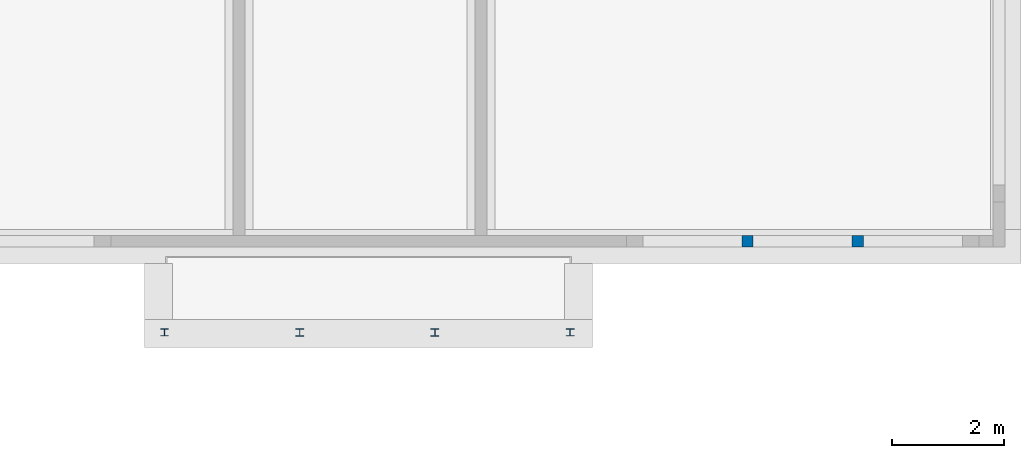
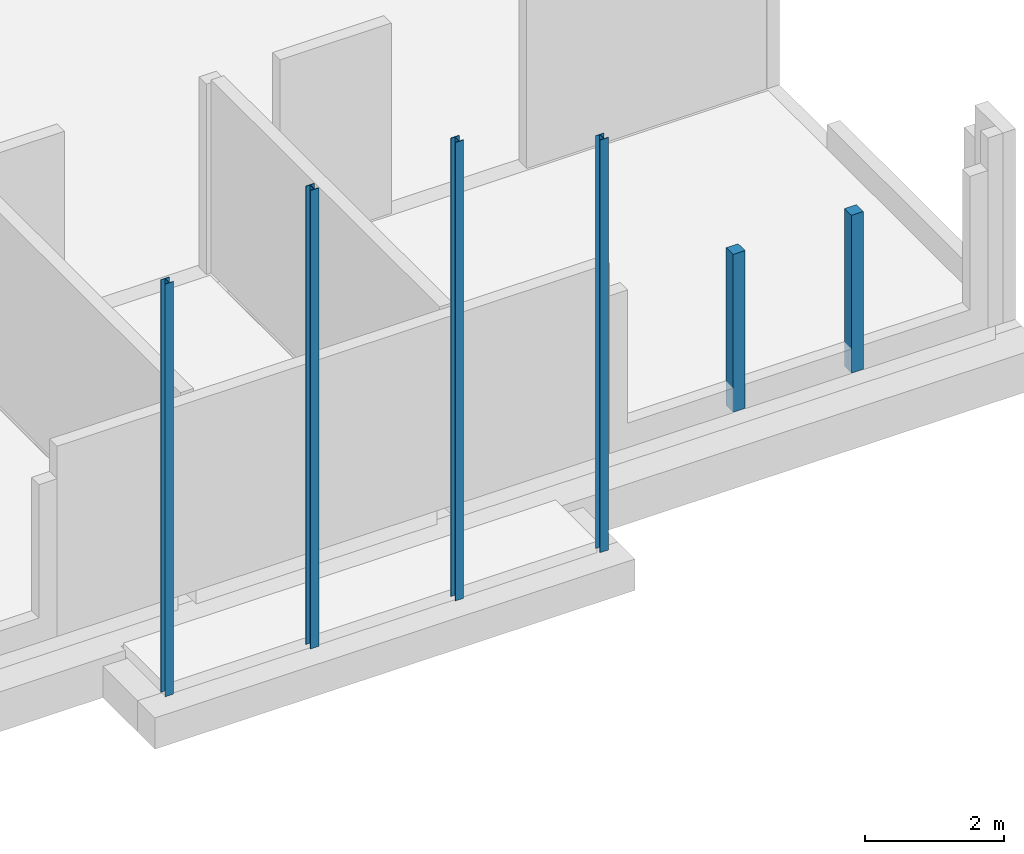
# One storey, part 2 of 17: 6 columns.
"""IFC2X3 building model written with IfcOpenShell, lengths in millimetres."""

from ifc_helpers import new_model, entity, si_unit, converted_unit, derived_unit, direction, frame, frame_2d, origin, place, context, subcontext, project, spatial, polyline, rectangle, i_section, outline, extrude, source, transform, mapped, material, material_list, type_object, type_shapes, element, save


model = new_model("IFC2X3")

# Units and contexts
model_context = context("Model", 3, precision=0.01, world=origin(), true_north=direction((6.123031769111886e-17, 1.0)))
body_context = subcontext(model_context, "Body", "Model", "MODEL_VIEW")
ifc_project = project(units=[si_unit("LENGTHUNIT", "METRE", prefix="MILLI"), si_unit("AREAUNIT", "SQUARE_METRE", prefix="MILLI"), si_unit("VOLUMEUNIT", "CUBIC_METRE"), converted_unit("PLANEANGLEUNIT", "DEGREE", entity("IfcPlaneAngleMeasure", 0.017453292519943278), si_unit("PLANEANGLEUNIT", "RADIAN"), dimensions=[0, 0, 0, 0, 0, 0, 0]), si_unit("MASSUNIT", "GRAM", prefix="KILO"), derived_unit("MASSDENSITYUNIT", [(si_unit("MASSUNIT", "GRAM", prefix="KILO"), 1), (si_unit("LENGTHUNIT", "METRE"), -3)]), derived_unit("IONCONCENTRATIONUNIT", [(si_unit("MASSUNIT", "GRAM", prefix="KILO"), 1), (si_unit("LENGTHUNIT", "METRE"), -3)]), derived_unit("MOMENTOFINERTIAUNIT", [(si_unit("LENGTHUNIT", "METRE"), 4)]), si_unit("TIMEUNIT", "SECOND"), si_unit("FREQUENCYUNIT", "HERTZ"), si_unit("THERMODYNAMICTEMPERATUREUNIT", "DEGREE_CELSIUS"), derived_unit("THERMALTRANSMITTANCEUNIT", [(si_unit("MASSUNIT", "GRAM", prefix="KILO"), 1), (si_unit("THERMODYNAMICTEMPERATUREUNIT", "KELVIN"), -1), (si_unit("TIMEUNIT", "SECOND"), -3)]), derived_unit("THERMALCONDUCTANCEUNIT", [(si_unit("MASSUNIT", "GRAM", prefix="KILO"), 1), (si_unit("THERMODYNAMICTEMPERATUREUNIT", "KELVIN"), -1), (si_unit("TIMEUNIT", "SECOND"), -3), (si_unit("LENGTHUNIT", "METRE"), 1)]), derived_unit("VOLUMETRICFLOWRATEUNIT", [(si_unit("LENGTHUNIT", "METRE", prefix="DECI"), 3), (si_unit("TIMEUNIT", "SECOND"), -1)]), derived_unit("MASSFLOWRATEUNIT", [(si_unit("MASSUNIT", "GRAM", prefix="KILO"), 1), (si_unit("TIMEUNIT", "SECOND"), -1)]), derived_unit("ROTATIONALFREQUENCYUNIT", [(si_unit("TIMEUNIT", "SECOND"), -1)]), si_unit("ELECTRICCURRENTUNIT", "AMPERE"), si_unit("ELECTRICVOLTAGEUNIT", "VOLT"), si_unit("POWERUNIT", "WATT"), si_unit("FORCEUNIT", "NEWTON", prefix="KILO"), si_unit("ILLUMINANCEUNIT", "LUX"), si_unit("LUMINOUSFLUXUNIT", "LUMEN"), si_unit("LUMINOUSINTENSITYUNIT", "CANDELA"), si_unit("ENERGYUNIT", "JOULE"), derived_unit("USERDEFINED", [(si_unit("MASSUNIT", "GRAM", prefix="KILO"), -1), (si_unit("LENGTHUNIT", "METRE"), -2), (si_unit("TIMEUNIT", "SECOND"), 3), (si_unit("LUMINOUSFLUXUNIT", "LUMEN"), 1)]), derived_unit("USERDEFINED", [(si_unit("MASSUNIT", "GRAM", prefix="KILO"), 1), (si_unit("TIMEUNIT", "SECOND"), -3), (si_unit("LENGTHUNIT", "METRE"), 3), (si_unit("ELECTRICCURRENTUNIT", "AMPERE"), -2)]), derived_unit("SOUNDPOWERUNIT", [(si_unit("MASSUNIT", "GRAM", prefix="KILO"), 1), (si_unit("TIMEUNIT", "SECOND"), -3), (si_unit("LENGTHUNIT", "METRE"), 2)]), derived_unit("SOUNDPRESSUREUNIT", [(si_unit("MASSUNIT", "GRAM", prefix="KILO"), 1), (si_unit("LENGTHUNIT", "METRE"), -1), (si_unit("TIMEUNIT", "SECOND"), -2)]), derived_unit("LINEARVELOCITYUNIT", [(si_unit("LENGTHUNIT", "METRE"), 1), (si_unit("TIMEUNIT", "SECOND"), -1)]), si_unit("PRESSUREUNIT", "PASCAL"), derived_unit("USERDEFINED", [(si_unit("MASSUNIT", "GRAM", prefix="KILO"), 1), (si_unit("LENGTHUNIT", "METRE"), -2), (si_unit("TIMEUNIT", "SECOND"), -2)]), derived_unit("LINEARFORCEUNIT", [(si_unit("MASSUNIT", "GRAM", prefix="KILO"), 1), (si_unit("TIMEUNIT", "SECOND"), -2)]), derived_unit("PLANARFORCEUNIT", [(si_unit("MASSUNIT", "GRAM", prefix="KILO"), 1), (si_unit("LENGTHUNIT", "METRE"), -1), (si_unit("TIMEUNIT", "SECOND"), -2)]), derived_unit("SPECIFICHEATCAPACITYUNIT", [(si_unit("THERMODYNAMICTEMPERATUREUNIT", "KELVIN"), -1), (si_unit("LENGTHUNIT", "METRE"), 2), (si_unit("TIMEUNIT", "SECOND"), -2)]), derived_unit("HEATFLUXDENSITYUNIT", [(si_unit("MASSUNIT", "GRAM", prefix="KILO"), 1), (si_unit("TIMEUNIT", "SECOND"), -3)]), derived_unit("HEATINGVALUEUNIT", [(si_unit("LENGTHUNIT", "METRE"), 2), (si_unit("TIMEUNIT", "SECOND"), -2)]), derived_unit("VAPORPERMEABILITYUNIT", [(si_unit("LENGTHUNIT", "METRE"), -1), (si_unit("TIMEUNIT", "SECOND"), 1)]), derived_unit("DYNAMICVISCOSITYUNIT", [(si_unit("MASSUNIT", "GRAM", prefix="KILO"), 1), (si_unit("TIMEUNIT", "SECOND"), -1), (si_unit("LENGTHUNIT", "METRE"), -1)]), derived_unit("THERMALEXPANSIONCOEFFICIENTUNIT", [(si_unit("THERMODYNAMICTEMPERATUREUNIT", "KELVIN"), -1)]), derived_unit("MODULUSOFELASTICITYUNIT", [(si_unit("MASSUNIT", "GRAM", prefix="KILO"), 1), (si_unit("LENGTHUNIT", "METRE"), -1), (si_unit("TIMEUNIT", "SECOND"), -2)]), derived_unit("ISOTHERMALMOISTURECAPACITYUNIT", [(si_unit("MASSUNIT", "GRAM", prefix="KILO"), -1), (si_unit("LENGTHUNIT", "METRE"), 3)]), derived_unit("MOISTUREDIFFUSIVITYUNIT", [(si_unit("TIMEUNIT", "SECOND"), -1), (si_unit("LENGTHUNIT", "METRE"), 2)]), derived_unit("MASSPERLENGTHUNIT", [(si_unit("MASSUNIT", "GRAM", prefix="KILO"), 1), (si_unit("LENGTHUNIT", "METRE"), -1)]), derived_unit("THERMALRESISTANCEUNIT", [(si_unit("MASSUNIT", "GRAM", prefix="KILO"), -1), (si_unit("TIMEUNIT", "SECOND"), 3), (si_unit("THERMODYNAMICTEMPERATUREUNIT", "KELVIN"), 1)]), derived_unit("ACCELERATIONUNIT", [(si_unit("LENGTHUNIT", "METRE"), 1), (si_unit("TIMEUNIT", "SECOND"), -2)]), derived_unit("ANGULARVELOCITYUNIT", [(si_unit("TIMEUNIT", "SECOND"), -1), (si_unit("PLANEANGLEUNIT", "RADIAN"), 1)]), derived_unit("LINEARSTIFFNESSUNIT", [(si_unit("MASSUNIT", "GRAM", prefix="KILO"), 1), (si_unit("TIMEUNIT", "SECOND"), -2)]), derived_unit("WARPINGCONSTANTUNIT", [(si_unit("LENGTHUNIT", "METRE"), 6)]), derived_unit("LINEARMOMENTUNIT", [(si_unit("MASSUNIT", "GRAM", prefix="KILO"), 1), (si_unit("LENGTHUNIT", "METRE"), 1), (si_unit("TIMEUNIT", "SECOND"), -2)]), derived_unit("TORQUEUNIT", [(si_unit("MASSUNIT", "GRAM", prefix="KILO"), 1), (si_unit("LENGTHUNIT", "METRE"), 2), (si_unit("TIMEUNIT", "SECOND"), -2)])], contexts=[model_context])

# Site, building, storey
site_placement = place(None, origin())
site = spatial("IfcSite", under=ifc_project, at=site_placement, Name="Default", CompositionType="ELEMENT")
building_placement = place(site_placement, origin())
building = spatial("IfcBuilding", under=site, at=building_placement, CompositionType="ELEMENT")
storey_placement = place(building_placement, frame((0.0, 0.0, -70.0)))
storey = spatial("IfcBuildingStorey", under=building, at=storey_placement, Name="F1 begg (bk ruwe vloer)", CompositionType="ELEMENT", Elevation=-69.99999999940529)

# Columns
ifc_material_1 = material(Name="Metal - Steel - S235 JRG2 (standaard)")
column_type_1 = type_object("IfcColumnType", Name="btk_staal - HE(a-b-m):HEA140", PredefinedType="COLUMN", material=ifc_material_1)
shared_shape_1 = source(origin(), body_context, "Body", "SweptSolid", [
    extrude(i_section(OverallWidth=139.9999999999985, OverallDepth=133.00000000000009, WebThickness=5.499999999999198, FlangeThickness=8.500000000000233, at=frame_2d((2.1671553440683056e-12, 0.0), x_axis=(1.0, 0.0))), frame((21573.430061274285, 1413.0173153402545, -480.0)), (0.0, 0.0, 1.0), 7264.999999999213),
])
type_shapes(column_type_1, [shared_shape_1])
column_1_placement = place(storey_placement, frame((0.0, 0.0, 70.0)))
element("IfcColumn", 1, at=column_1_placement, inside=storey, type_object=column_type_1, material=ifc_material_1, Name="btk_staal - HE(a-b-m):HEA140", ObjectType="btk_staal - HE(a-b-m):HEA140", context=body_context, shape_type="MappedRepresentation", body=[
    mapped(shared_shape_1, transform((0.0, 0.0, 0.0), scale=1.0)),
])
column_type_2 = type_object("IfcColumnType", Name="btk_staal - HE(a-b-m):HEA140", PredefinedType="COLUMN", material=ifc_material_1)
shared_shape_2 = source(origin(), body_context, "Body", "SweptSolid", [
    extrude(i_section(OverallWidth=139.9999999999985, OverallDepth=133.00000000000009, WebThickness=5.499999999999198, FlangeThickness=8.500000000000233, at=frame_2d((-1.0871303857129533e-12, 0.0), x_axis=(1.0, 0.0))), frame((14332.555252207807, 1413.0173153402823, -480.0)), (0.0, 0.0, 1.0), 7264.999999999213),
])
type_shapes(column_type_2, [shared_shape_2])
column_2_placement = place(storey_placement, frame((0.0, 0.0, 70.0)))
element("IfcColumn", 2, at=column_2_placement, inside=storey, type_object=column_type_2, material=ifc_material_1, Name="btk_staal - HE(a-b-m):HEA140", ObjectType="btk_staal - HE(a-b-m):HEA140", context=body_context, shape_type="MappedRepresentation", body=[
    mapped(shared_shape_2, transform((0.0, 0.0, 0.0), scale=1.0)),
])
column_type_3 = type_object("IfcColumnType", Name="btk_staal - HE(a-b-m):HEB140", PredefinedType="COLUMN", material=ifc_material_1)
shared_shape_3 = source(origin(), body_context, "Body", "SweptSolid", [
    extrude(i_section(OverallWidth=139.9999999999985, OverallDepth=140.0000000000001, WebThickness=6.999999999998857, FlangeThickness=11.999999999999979, at=frame_2d((-1.0800249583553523e-12, 2.7000623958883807e-13), x_axis=(1.0, 0.0))), frame((16746.180188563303, 1409.517315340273, -480.0)), (0.0, 0.0, 1.0), 8069.999999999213),
])
type_shapes(column_type_3, [shared_shape_3])
column_3_placement = place(storey_placement, frame((0.0, 0.0, 70.0)))
element("IfcColumn", 3, at=column_3_placement, inside=storey, type_object=column_type_3, material=ifc_material_1, Name="btk_staal - HE(a-b-m):HEB140", ObjectType="btk_staal - HE(a-b-m):HEB140", context=body_context, shape_type="MappedRepresentation", body=[
    mapped(shared_shape_3, transform((0.0, 0.0, 0.0), scale=1.0)),
])
column_type_4 = type_object("IfcColumnType", Name="btk_staal - HE(a-b-m):HEB140", PredefinedType="COLUMN", material=ifc_material_1)
shared_shape_4 = source(origin(), body_context, "Body", "SweptSolid", [
    extrude(i_section(OverallWidth=139.9999999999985, OverallDepth=140.0000000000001, WebThickness=6.999999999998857, FlangeThickness=11.999999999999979, at=frame_2d((1.0800249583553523e-12, 0.0), x_axis=(1.0, 0.0))), frame((19159.80512491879, 1409.5173153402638, -480.0)), (0.0, 0.0, 1.0), 8069.999999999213),
])
type_shapes(column_type_4, [shared_shape_4])
column_4_placement = place(storey_placement, frame((0.0, 0.0, 70.0)))
element("IfcColumn", 4, at=column_4_placement, inside=storey, type_object=column_type_4, material=ifc_material_1, Name="btk_staal - HE(a-b-m):HEB140", ObjectType="btk_staal - HE(a-b-m):HEB140", context=body_context, shape_type="MappedRepresentation", body=[
    mapped(shared_shape_4, transform((0.0, 0.0, 0.0), scale=1.0)),
])
ifc_material_2 = material(Name="Concrete - Cast-in-Place - C30/37")
ifc_material_3 = material(Name="Metal - Steel - S275 J0H (standaard-kokers/buizen)")
ifc_material_list = material_list([ifc_material_2, ifc_material_3])
column_type_5 = type_object("IfcColumnType", Name="btk_staal - Koker + beton:K200x200x8", PredefinedType="COLUMN", material=ifc_material_list)
shared_shape_5 = source(origin(), body_context, "Body", "SweptSolid", [
    extrude(rectangle(XDim=184.00000000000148, YDim=183.99999999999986, at=frame_2d((0.0, 2.7000623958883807e-13), x_axis=(1.0, 0.0))), frame((24739.06016343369, 3037.6050130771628, -70.0), z_axis=(0.0, 0.0, 1.0), x_axis=(-1.0, 0.0, 0.0)), (0.0, 0.0, 1.0), 2777.9999999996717),
    extrude(outline(polyline([(-100.0, -100.0), (100.0, -100.0), (100.0, 100.0), (-100.0, 100.0), (-100.0, -100.0)]), holes=[polyline([(-92.0, -92.0), (-92.0, 92.0), (92.0, 92.0), (92.0, -92.0), (-92.0, -92.0)])]), frame((24739.06016343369, 3037.6050130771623, -70.0), z_axis=(0.0, 0.0, 1.0), x_axis=(-1.0, 0.0, 0.0)), (0.0, 0.0, 1.0), 2777.9999999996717),
])
type_shapes(column_type_5, [shared_shape_5])
column_5_placement = place(storey_placement, frame((0.0, 0.0, 70.0)))
element("IfcColumn", 5, at=column_5_placement, inside=storey, type_object=column_type_5, material=ifc_material_list, Name="btk_staal - Koker + beton:K200x200x8", ObjectType="btk_staal - Koker + beton:K200x200x8", context=body_context, shape_type="MappedRepresentation", body=[
    mapped(shared_shape_5, transform((0.0, 0.0, 0.0), scale=1.0)),
])
column_type_6 = type_object("IfcColumnType", Name="btk_staal - Koker + beton:K200x200x8", PredefinedType="COLUMN", material=ifc_material_list)
shared_shape_6 = source(origin(), body_context, "Body", "SweptSolid", [
    extrude(rectangle(XDim=184.00000000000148, YDim=183.99999999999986, at=frame_2d((0.0, 2.7000623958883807e-13), x_axis=(1.0, 0.0))), frame((26708.88919273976, 3037.6050130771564, -70.0), z_axis=(0.0, 0.0, 1.0), x_axis=(-1.0, 0.0, 0.0)), (0.0, 0.0, 1.0), 2777.9999999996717),
    extrude(outline(polyline([(-100.0, -100.0), (100.0, -100.0), (100.0, 100.0), (-100.0, 100.0), (-100.0, -100.0)]), holes=[polyline([(-92.0, -92.0), (-92.0, 92.0), (92.0, 92.0), (92.0, -92.0), (-92.0, -92.0)])]), frame((26708.88919273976, 3037.6050130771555, -70.0), z_axis=(0.0, 0.0, 1.0), x_axis=(-1.0, 0.0, 0.0)), (0.0, 0.0, 1.0), 2777.9999999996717),
])
type_shapes(column_type_6, [shared_shape_6])
column_6_placement = place(storey_placement, frame((0.0, 0.0, 70.0)))
element("IfcColumn", 6, at=column_6_placement, inside=storey, type_object=column_type_6, material=ifc_material_list, Name="btk_staal - Koker + beton:K200x200x8", ObjectType="btk_staal - Koker + beton:K200x200x8", context=body_context, shape_type="MappedRepresentation", body=[
    mapped(shared_shape_6, transform((0.0, 0.0, 0.0), scale=1.0)),
])

save(model, "model.ifc")
